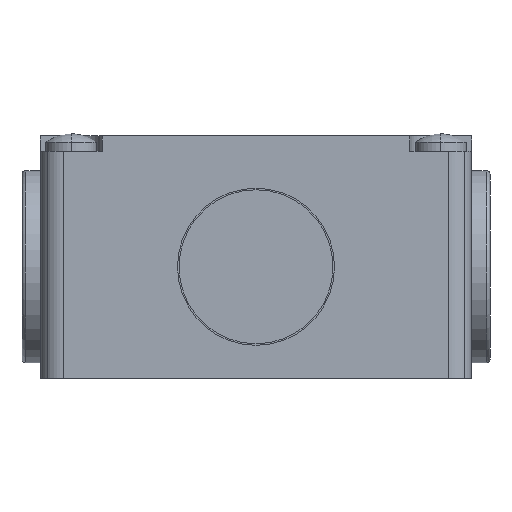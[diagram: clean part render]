
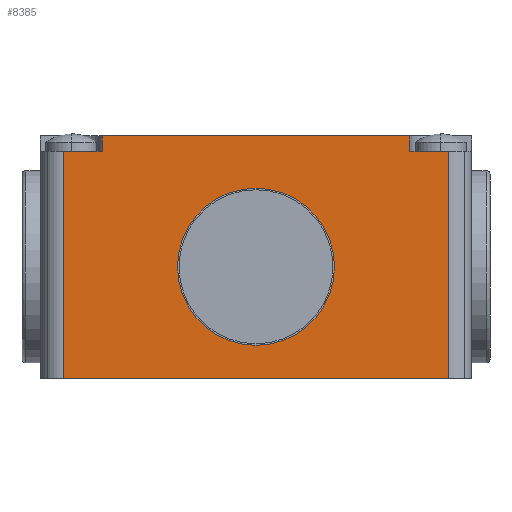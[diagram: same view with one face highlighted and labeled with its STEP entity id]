
A CAD part, front view. The second image highlights one B-rep face of the part: STEP entity #8385.
In plain terms, the highlighted planar face has unit normal (0, -1, 0).
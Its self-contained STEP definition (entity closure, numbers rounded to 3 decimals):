
#202 = DIRECTION ( 'NONE',  ( 1., 0., 0. ) ) ;
#757 = EDGE_CURVE ( 'NONE', #11949, #15217, #4603, .T. ) ;
#809 = VECTOR ( 'NONE', #8909, 1000. ) ;
#1282 = EDGE_LOOP ( 'NONE', ( #9680, #5833 ) ) ;
#1411 = VECTOR ( 'NONE', #16159, 1000. ) ;
#1746 = CARTESIAN_POINT ( 'NONE',  ( 0., -56.8, 0. ) ) ;
#2695 = CARTESIAN_POINT ( 'NONE',  ( -20., -56.8, 15. ) ) ;
#2726 = EDGE_CURVE ( 'NONE', #15217, #17084, #5595, .T. ) ;
#2901 = EDGE_CURVE ( 'NONE', #16374, #13480, #17531, .T. ) ;
#3039 = CARTESIAN_POINT ( 'NONE',  ( 20., -56.8, 15. ) ) ;
#3117 = DIRECTION ( 'NONE',  ( 0., 0., -1. ) ) ;
#3202 = EDGE_CURVE ( 'NONE', #12599, #4060, #7292, .T. ) ;
#3841 = EDGE_CURVE ( 'NONE', #13480, #16374, #12818, .T. ) ;
#3871 = CARTESIAN_POINT ( 'NONE',  ( 0., -56.8, 0. ) ) ;
#3964 = AXIS2_PLACEMENT_3D ( 'NONE', #3871, #13409, #5242 ) ;
#4045 = DIRECTION ( 'NONE',  ( 0., 0., 1. ) ) ;
#4060 = VERTEX_POINT ( 'NONE', #3039 ) ;
#4180 = LINE ( 'NONE', #15250, #7377 ) ;
#4475 = ORIENTED_EDGE ( 'NONE', *, *, #6766, .T. ) ;
#4603 = LINE ( 'NONE', #6608, #1411 ) ;
#4767 = AXIS2_PLACEMENT_3D ( 'NONE', #1746, #11275, #3117 ) ;
#4843 = EDGE_CURVE ( 'NONE', #11949, #9878, #4180, .T. ) ;
#4997 = VECTOR ( 'NONE', #5342, 1000. ) ;
#5186 = CARTESIAN_POINT ( 'NONE',  ( -25., -56.8, 15. ) ) ;
#5242 = DIRECTION ( 'NONE',  ( 0., 0., -1. ) ) ;
#5342 = DIRECTION ( 'NONE',  ( 0., 0., 1. ) ) ;
#5352 = ORIENTED_EDGE ( 'NONE', *, *, #14289, .T. ) ;
#5595 = LINE ( 'NONE', #9964, #16062 ) ;
#5597 = LINE ( 'NONE', #7942, #16067 ) ;
#5833 = ORIENTED_EDGE ( 'NONE', *, *, #3841, .F. ) ;
#5864 = ORIENTED_EDGE ( 'NONE', *, *, #2726, .F. ) ;
#5969 = CARTESIAN_POINT ( 'NONE',  ( 25., -56.8, -14.5 ) ) ;
#6351 = FACE_BOUND ( 'NONE', #1282, .T. ) ;
#6386 = ORIENTED_EDGE ( 'NONE', *, *, #10315, .F. ) ;
#6608 = CARTESIAN_POINT ( 'NONE',  ( -25., -56.8, -14.5 ) ) ;
#6766 = EDGE_CURVE ( 'NONE', #4060, #16024, #5597, .T. ) ;
#6848 = CARTESIAN_POINT ( 'NONE',  ( 20., -56.8, 17. ) ) ;
#7244 = EDGE_LOOP ( 'NONE', ( #11375, #5352, #14087, #4475, #6386, #14909, #5864, #7795 ) ) ;
#7248 = VERTEX_POINT ( 'NONE', #14647 ) ;
#7292 = LINE ( 'NONE', #17162, #13689 ) ;
#7377 = VECTOR ( 'NONE', #202, 1000. ) ;
#7556 = CARTESIAN_POINT ( 'NONE',  ( -25., -56.8, 17. ) ) ;
#7621 = DIRECTION ( 'NONE',  ( -1., 0., 0. ) ) ;
#7795 = ORIENTED_EDGE ( 'NONE', *, *, #757, .F. ) ;
#7942 = CARTESIAN_POINT ( 'NONE',  ( 20., -56.8, 15. ) ) ;
#8071 = DIRECTION ( 'NONE',  ( 0., 0., -1. ) ) ;
#8385 = ADVANCED_FACE ( 'NONE', ( #6351, #9957 ), #14889, .T. ) ;
#8577 = CARTESIAN_POINT ( 'NONE',  ( 0., -56.8, 10.2 ) ) ;
#8909 = DIRECTION ( 'NONE',  ( 1., 0., 0. ) ) ;
#9033 = CARTESIAN_POINT ( 'NONE',  ( -25., -56.8, -14.5 ) ) ;
#9680 = ORIENTED_EDGE ( 'NONE', *, *, #2901, .F. ) ;
#9878 = VERTEX_POINT ( 'NONE', #5969 ) ;
#9957 = FACE_OUTER_BOUND ( 'NONE', #7244, .T. ) ;
#9964 = CARTESIAN_POINT ( 'NONE',  ( -28., -56.8, 15. ) ) ;
#10315 = EDGE_CURVE ( 'NONE', #7248, #16024, #11648, .T. ) ;
#10704 = CARTESIAN_POINT ( 'NONE',  ( 25., -56.8, -14.5 ) ) ;
#11275 = DIRECTION ( 'NONE',  ( 0., -1., 0. ) ) ;
#11336 = DIRECTION ( 'NONE',  ( 1., 0., 0. ) ) ;
#11375 = ORIENTED_EDGE ( 'NONE', *, *, #4843, .T. ) ;
#11648 = LINE ( 'NONE', #7556, #809 ) ;
#11949 = VERTEX_POINT ( 'NONE', #9033 ) ;
#12213 = AXIS2_PLACEMENT_3D ( 'NONE', #13516, #16256, #8071 ) ;
#12226 = LINE ( 'NONE', #10704, #4997 ) ;
#12599 = VERTEX_POINT ( 'NONE', #15276 ) ;
#12818 = CIRCLE ( 'NONE', #4767, 10.2 ) ;
#13049 = EDGE_CURVE ( 'NONE', #17084, #7248, #13317, .T. ) ;
#13317 = LINE ( 'NONE', #16270, #16517 ) ;
#13409 = DIRECTION ( 'NONE',  ( 0., -1., 0. ) ) ;
#13480 = VERTEX_POINT ( 'NONE', #8577 ) ;
#13516 = CARTESIAN_POINT ( 'NONE',  ( -25., -56.8, -14.5 ) ) ;
#13689 = VECTOR ( 'NONE', #7621, 1000. ) ;
#14087 = ORIENTED_EDGE ( 'NONE', *, *, #3202, .T. ) ;
#14289 = EDGE_CURVE ( 'NONE', #9878, #12599, #12226, .T. ) ;
#14647 = CARTESIAN_POINT ( 'NONE',  ( -20., -56.8, 17. ) ) ;
#14758 = DIRECTION ( 'NONE',  ( 0., 0., 1. ) ) ;
#14889 = PLANE ( 'NONE',  #12213 ) ;
#14909 = ORIENTED_EDGE ( 'NONE', *, *, #13049, .F. ) ;
#15217 = VERTEX_POINT ( 'NONE', #5186 ) ;
#15250 = CARTESIAN_POINT ( 'NONE',  ( -25., -56.8, -14.5 ) ) ;
#15276 = CARTESIAN_POINT ( 'NONE',  ( 25., -56.8, 15. ) ) ;
#15983 = CARTESIAN_POINT ( 'NONE',  ( 0., -56.8, -10.2 ) ) ;
#16024 = VERTEX_POINT ( 'NONE', #6848 ) ;
#16062 = VECTOR ( 'NONE', #11336, 1000. ) ;
#16067 = VECTOR ( 'NONE', #14758, 1000. ) ;
#16159 = DIRECTION ( 'NONE',  ( 0., 0., 1. ) ) ;
#16256 = DIRECTION ( 'NONE',  ( 0., -1., 0. ) ) ;
#16270 = CARTESIAN_POINT ( 'NONE',  ( -20., -56.8, 15. ) ) ;
#16374 = VERTEX_POINT ( 'NONE', #15983 ) ;
#16517 = VECTOR ( 'NONE', #4045, 1000. ) ;
#17084 = VERTEX_POINT ( 'NONE', #2695 ) ;
#17162 = CARTESIAN_POINT ( 'NONE',  ( 28., -56.8, 15. ) ) ;
#17531 = CIRCLE ( 'NONE', #3964, 10.2 ) ;
